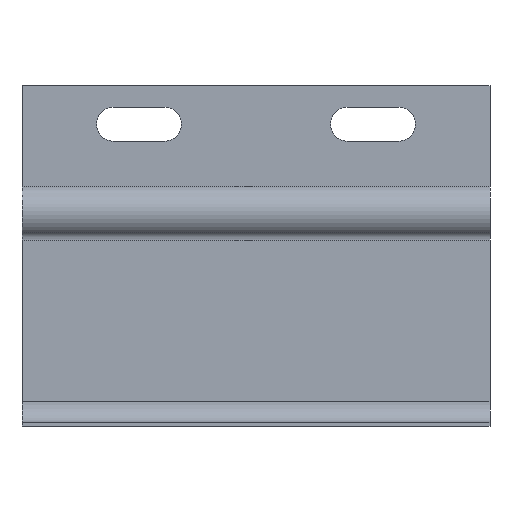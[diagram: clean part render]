
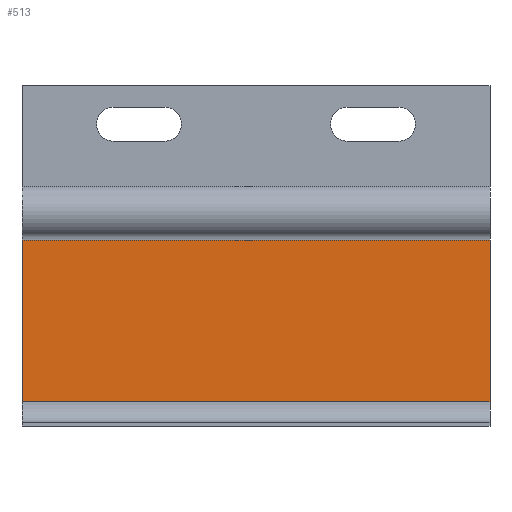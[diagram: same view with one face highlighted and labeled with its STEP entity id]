
A CAD part, top view. The second image highlights one B-rep face of the part: STEP entity #513.
In plain terms, the highlighted planar face has unit normal (0, 0, 1).
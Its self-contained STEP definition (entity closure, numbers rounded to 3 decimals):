
#1 = DIRECTION ( 'NONE',  ( 0., 1., 0. ) ) ;
#89 = EDGE_CURVE ( 'NONE', #516, #397, #228, .T. ) ;
#102 = CARTESIAN_POINT ( 'NONE',  ( -55., -28.7, 0.8 ) ) ;
#121 = ORIENTED_EDGE ( 'NONE', *, *, #592, .T. ) ;
#150 = CARTESIAN_POINT ( 'NONE',  ( 55., -45.5, 0.8 ) ) ;
#187 = DIRECTION ( 'NONE',  ( -1., 0., 0. ) ) ;
#213 = VERTEX_POINT ( 'NONE', #292 ) ;
#228 = LINE ( 'NONE', #150, #508 ) ;
#235 = VECTOR ( 'NONE', #657, 1000. ) ;
#264 = EDGE_CURVE ( 'NONE', #397, #213, #811, .T. ) ;
#266 = DIRECTION ( 'NONE',  ( 0., 0., -1. ) ) ;
#292 = CARTESIAN_POINT ( 'NONE',  ( -55., 9.255, 0.8 ) ) ;
#333 = LINE ( 'NONE', #512, #235 ) ;
#372 = CARTESIAN_POINT ( 'NONE',  ( -55., -45.5, 0.8 ) ) ;
#397 = VERTEX_POINT ( 'NONE', #545 ) ;
#485 = DIRECTION ( 'NONE',  ( -1., 0., 0. ) ) ;
#503 = VERTEX_POINT ( 'NONE', #102 ) ;
#508 = VECTOR ( 'NONE', #1, 1000. ) ;
#512 = CARTESIAN_POINT ( 'NONE',  ( 55., -28.7, 0.8 ) ) ;
#513 = ADVANCED_FACE ( 'NONE', ( #913 ), #594, .F. ) ;
#516 = VERTEX_POINT ( 'NONE', #825 ) ;
#545 = CARTESIAN_POINT ( 'NONE',  ( 55., 9.255, 0.8 ) ) ;
#565 = EDGE_CURVE ( 'NONE', #503, #516, #333, .T. ) ;
#578 = AXIS2_PLACEMENT_3D ( 'NONE', #672, #266, #187 ) ;
#592 = EDGE_CURVE ( 'NONE', #213, #503, #678, .T. ) ;
#594 = PLANE ( 'NONE',  #578 ) ;
#601 = DIRECTION ( 'NONE',  ( 0., -1., 0. ) ) ;
#657 = DIRECTION ( 'NONE',  ( 1., 0., 0. ) ) ;
#672 = CARTESIAN_POINT ( 'NONE',  ( 55., 45.5, 0.8 ) ) ;
#678 = LINE ( 'NONE', #372, #1018 ) ;
#744 = ORIENTED_EDGE ( 'NONE', *, *, #565, .T. ) ;
#807 = ORIENTED_EDGE ( 'NONE', *, *, #89, .T. ) ;
#811 = LINE ( 'NONE', #878, #896 ) ;
#825 = CARTESIAN_POINT ( 'NONE',  ( 55., -28.7, 0.8 ) ) ;
#878 = CARTESIAN_POINT ( 'NONE',  ( 70.345, 9.255, 0.8 ) ) ;
#896 = VECTOR ( 'NONE', #485, 1000. ) ;
#913 = FACE_OUTER_BOUND ( 'NONE', #933, .T. ) ;
#933 = EDGE_LOOP ( 'NONE', ( #807, #978, #121, #744 ) ) ;
#978 = ORIENTED_EDGE ( 'NONE', *, *, #264, .T. ) ;
#1018 = VECTOR ( 'NONE', #601, 1000. ) ;
